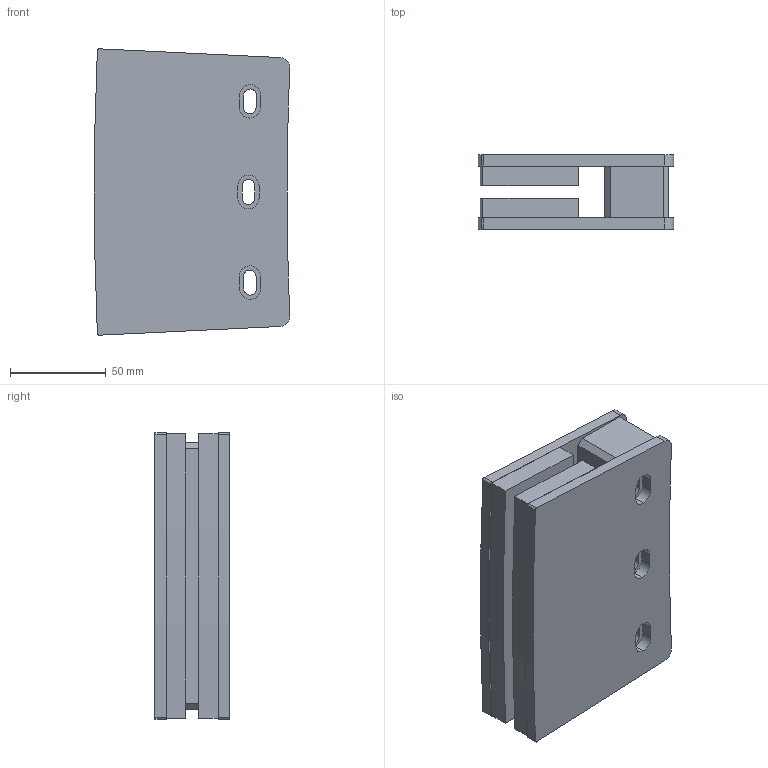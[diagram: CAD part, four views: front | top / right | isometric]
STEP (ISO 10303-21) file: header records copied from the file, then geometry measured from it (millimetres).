
FILE_DESCRIPTION (( 'STEP AP214' ), '1' );
FILE_NAME ('MBV-CMB1550B_Rev.2.00.STEP', '2014-01-24T02:37:51', ( ' ' ), ( '' ), 'SwSTEP 2.0', 'SolidWorks 2011', '' );
FILE_SCHEMA (( 'AUTOMOTIVE_DESIGN' ));
Length unit declared in the file: millimetre
Products named in the file (1): MBV-CMB1550B_Rev.2.00
Bounding box: 101.76 x 39 x 149.23 mm (x, y, z)
Volume: 433366.3 mm3; surface area: 75586.2 mm2
Topology: 1 solids, 1 shells, 106 faces, 273 edges, 182 vertices
Faces by surface type: cylinder 63, plane 43
Entity records: 3329 total; most frequent: DIRECTION 613, CARTESIAN_POINT 562, ORIENTED_EDGE 546, EDGE_CURVE 273, AXIS2_PLACEMENT_3D 233, VERTEX_POINT 182, VECTOR 147, LINE 147
